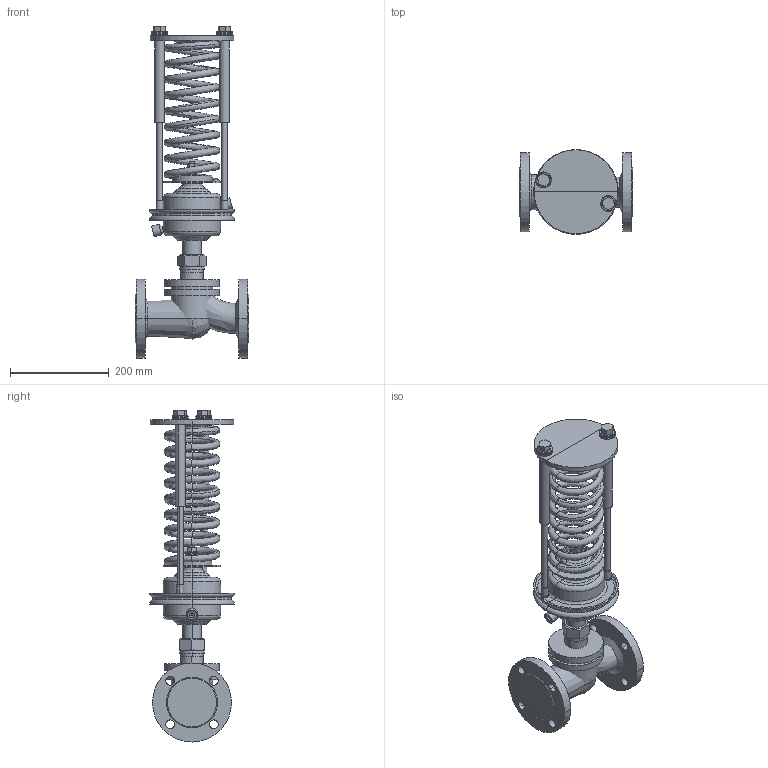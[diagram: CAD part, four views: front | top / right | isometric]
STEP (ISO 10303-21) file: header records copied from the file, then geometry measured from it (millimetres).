
FILE_DESCRIPTION(/* description */ (''),/* implementation_level */ '2;1');
FILE_NAME(/* name */ 'ETM_Регулятор давления_УРРД_НЗ_РД_DN50 0.3—1.2 МПа',/* time_stamp */ '2026-04-24T18:51:48+03:00',/* author */ (''),/* organization */ (''),/* preprocessor_version */ 'ST-DEVELOPER v20',/* originating_system */ '',/* authorisation */ '');
FILE_SCHEMA (('AP242_MANAGED_MODEL_BASED_3D_ENGINEERING_MIM_LF { 1 0 10303 442 1 1 4 }'));
Length unit declared in the file: millimetre
Products named in the file (13): TopLevelAssembly; Выдавливание; Переход; Выдавливание_
1; Переход_1; Переход_2; Переход_3; Объемная геометрия 
присоединена; Выдавливание_
2; Выдавливание_
3; Объемная геометрия 
присоединена_1; Выдавливание_
4; Пружина красная
Assembly tree (12 placements, depth 2):
  TopLevelAssembly
    Выдавливание
    Переход
    Выдавливание_
1
    Переход_1
    Переход_2
    Переход_3
    Объемная геометрия 
присоединена
    Выдавливание_
2
    Выдавливание_
3
    Объемная геометрия 
присоединена_1
    Выдавливание_
4
    Пружина красная
Bounding box: 230 x 171.97 x 672.75 mm (x, y, z)
Volume: 4322467.1 mm3; surface area: 709819.1 mm2
Topology: 31 solids, 31 shells, 506 faces, 1005 edges, 541 vertices
Faces by surface type: plane 181, bspline 177, cylinder 138, cone 10
Entity records: 16102 total; most frequent: CARTESIAN_POINT 5269, DIRECTION 2281, ORIENTED_EDGE 2006, EDGE_CURVE 1003, AXIS2_PLACEMENT_3D 958, CIRCLE 603, VERTEX_POINT 541, EDGE_LOOP 528
